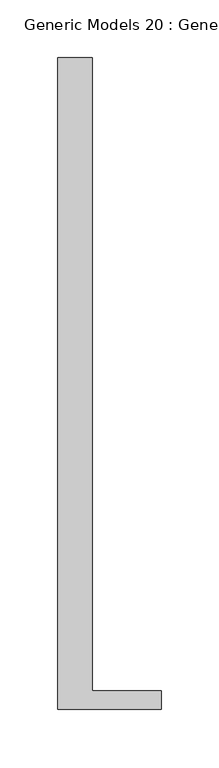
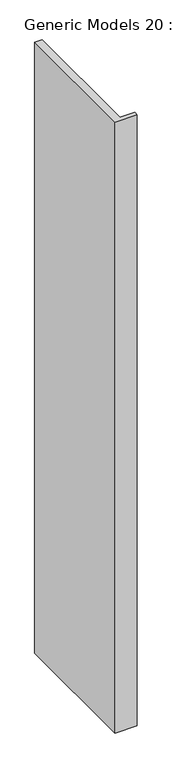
"""IFC4 building model written with IfcOpenShell, lengths in millimetres: proxy geometry, Generic Models 20 : Generic Models 20."""

from ifc_helpers import new_model, si_unit, origin, origin_with_axes, place, context, project, spatial, polyline, outline, extrude, source, transform, mapped, element, save


def generic_models_20_generic_models_20_c8fce76b(model_context):
    return source(origin(), model_context, "Body", "SweptSolid", [
        extrude(outline(polyline([(90577.8549068, 12050.8957676), (90577.8549068, 12616.7518002), (90607.7056699, 12616.7518002), (90607.7056699, 12067.071436), (90667.6563805, 12067.071436), (90667.6563805, 12050.8957676), (90577.8549068, 12050.8957676)])), origin_with_axes(), (0.0, 0.0, 1.0), 2627.5885811),
    ])


if __name__ == "__main__":
    model = new_model("IFC4")
    model_context = context("Model", 3, world=origin())
    ifc_project = project(units=[si_unit("LENGTHUNIT", "METRE", prefix="MILLI")], contexts=[model_context])
    site = spatial("IfcSite", under=ifc_project)
    building = spatial("IfcBuilding", under=site)
    placement = place(None, origin())
    generic_models_20_generic_models_20_shape = generic_models_20_generic_models_20_c8fce76b(model_context)
    element("IfcBuildingElementProxy", 1, Name="Generic Models 20 : Generic Models 20", ObjectType="Generic Models 20 : Generic Models 20", at=placement, inside=building, context=model_context, shape_type="MappedRepresentation", body=[
        mapped(generic_models_20_generic_models_20_shape, transform((0.0, 0.0, 0.0), x_axis=(1.0, 0.0, 0.0), y_axis=(0.0, 1.0, 0.0), z_axis=(0.0, 0.0, 1.0))),
    ])
    save(model, "model.ifc")
